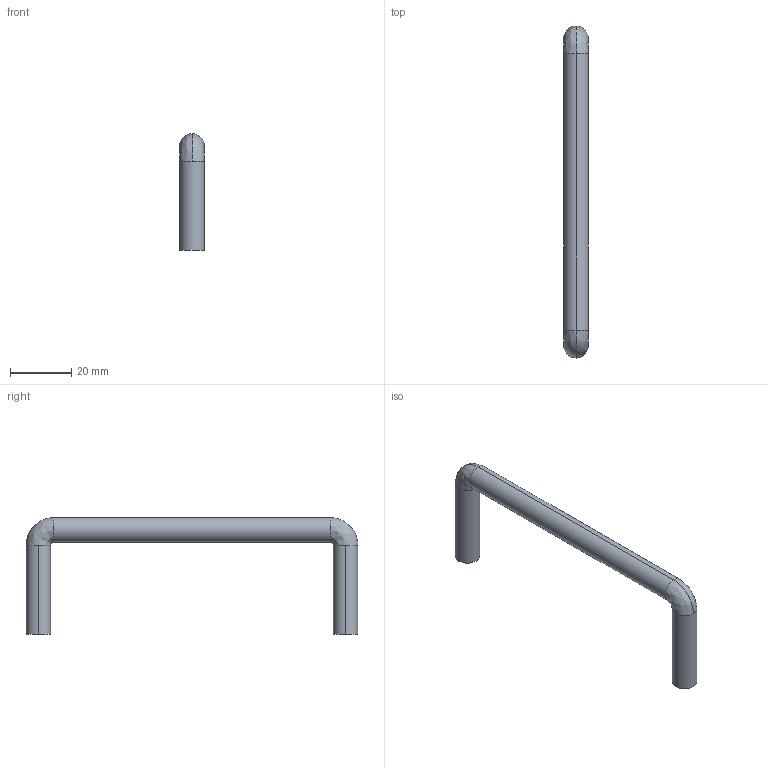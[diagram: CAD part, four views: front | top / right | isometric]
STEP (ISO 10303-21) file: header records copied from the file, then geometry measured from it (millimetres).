
FILE_DESCRIPTION (( 'STEP AP203' ), '1' );
FILE_NAME ('FHD04110.STEP', '2024-02-19T12:39:23', ( '' ), ( '' ), 'SwSTEP 2.0', 'SolidWorks 2022', '' );
FILE_SCHEMA (( 'CONFIG_CONTROL_DESIGN' ));
Length unit declared in the file: millimetre
Products named in the file (1): FHD04110
Bounding box: 8 x 108 x 38 mm (x, y, z)
Volume: 7954 mm3; surface area: 4477 mm2
Topology: 1 solids, 1 shells, 20 faces, 46 edges, 26 vertices
Faces by surface type: cylinder 10, cone 4, bspline 4, plane 2
Entity records: 667 total; most frequent: CARTESIAN_POINT 149, DIRECTION 104, ORIENTED_EDGE 84, AXIS2_PLACEMENT_3D 45, EDGE_CURVE 42, CIRCLE 28, VERTEX_POINT 26, EDGE_LOOP 22
